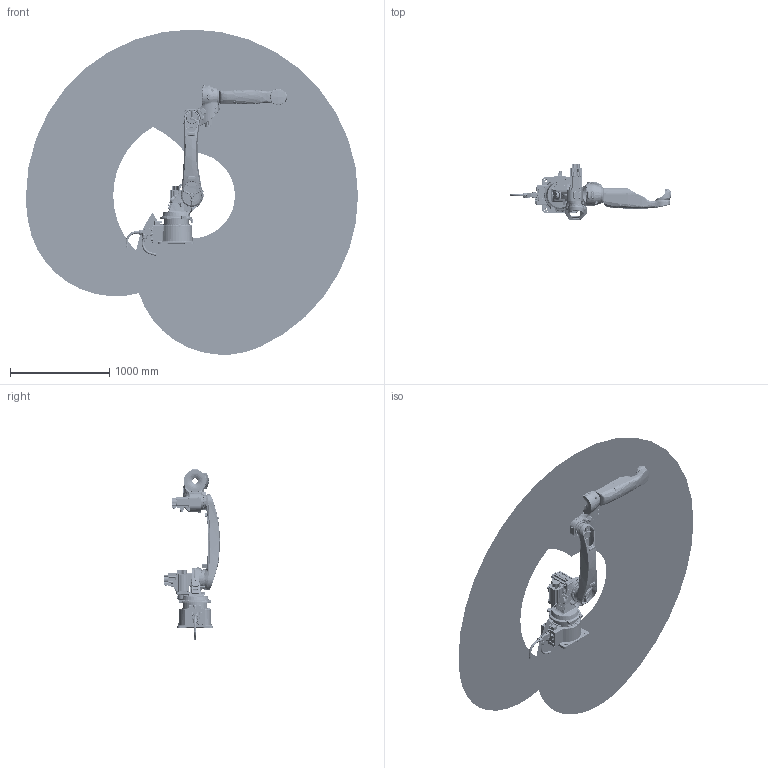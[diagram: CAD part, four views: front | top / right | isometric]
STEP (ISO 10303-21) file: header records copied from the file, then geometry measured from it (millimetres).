
FILE_DESCRIPTION (( 'STEP AP203' ), '1' );
FILE_NAME ('NB25h-2518 ¼ò»¯Ä£ÐÍSW2012(20250820).stp', '2025-08-25T01:11:26', ( '' ), ( '' ), 'SwSTEP 2.0', 'SolidWorks 2012', '' );
FILE_SCHEMA (( 'CONFIG_CONTROL_DESIGN' ));
Products named in the file (11): NB25h-2518 潠趙耀倰SW2012(20250820); NB25h-logo; NB25h-xiaobiqian-A_MODEL; NB25h-yao-B; NB25h-3Dwork; NB25h-xiaobihou-B; NB25h-shouwan-A; NB25h-shuchu-A; NB25h-base-A; NB25h-dabi-A
Assembly tree (10 placements, depth 3):
  NB25h-2518 潠趙耀倰SW2012(20250820)
    NB25h-base-A
    NB25h-dabi-A
    NB25h-shouwan-A
    NB25h-shuchu-A
    NB25h-xiaobihou-B
    NB25h-xiaobiqian-A_MODEL
      NB25h-xiaobiqian-A_MODEL
      NB25h-logo
    NB25h-yao-B
    NB25h-3Dwork
Bounding box: 3352.34 x 563.74 x 3281.79 mm (x, y, z)
Volume: 74588192.7 mm3; surface area: 18479506.6 mm2
Topology: 31 solids, 85 shells, 13451 faces, 34492 edges, 21385 vertices
Faces by surface type: plane 4990, cylinder 4568, bspline 1789, cone 1010, torus 673, sphere 421
Entity records: 938151 total; most frequent: CARTESIAN_POINT 624653, ORIENTED_EDGE 67754, DIRECTION 63011, EDGE_CURVE 33877, AXIS2_PLACEMENT_3D 24146, VERTEX_POINT 21369, VECTOR 14719, LINE 14719
